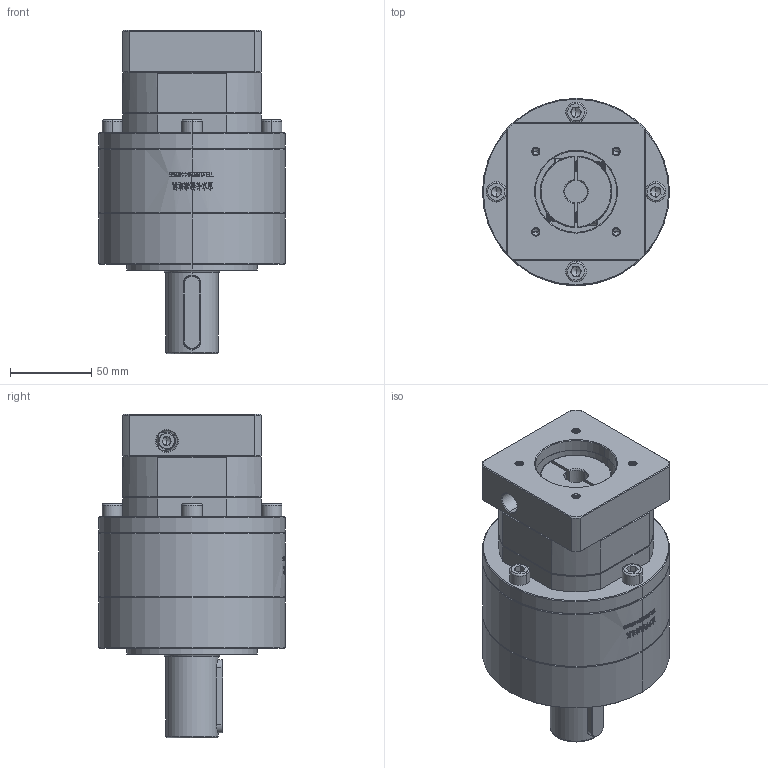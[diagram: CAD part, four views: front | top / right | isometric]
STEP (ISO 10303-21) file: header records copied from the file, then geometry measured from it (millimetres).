
FILE_DESCRIPTION (( 'STEP AP214' ), '1' );
FILE_NAME ('ZE120A-D32-L2-14-50-70-M5.step', '2023-03-13T06:50:44', ( '' ), ( '' ), 'SwSTEP 2.0', 'SolidWorks 2016', '' );
FILE_SCHEMA (( 'AUTOMOTIVE_DESIGN' ));
Length unit declared in the file: millimetre
Products named in the file (1): ZE120A-D32-L2-14-50-70-M5
Bounding box: 115 x 115 x 199 mm (x, y, z)
Volume: 1251517.4 mm3; surface area: 122814.4 mm2
Topology: 5 solids, 6 shells, 2026 faces, 5363 edges, 3428 vertices
Faces by surface type: plane 862, cylinder 500, bspline 348, cone 316
Entity records: 117418 total; most frequent: CARTESIAN_POINT 49602, ORIENTED_EDGE 10650, DIRECTION 7947, EDGE_CURVE 5325, VERTEX_POINT 3428, LINE 2817, VECTOR 2817, AXIS2_PLACEMENT_3D 2565
